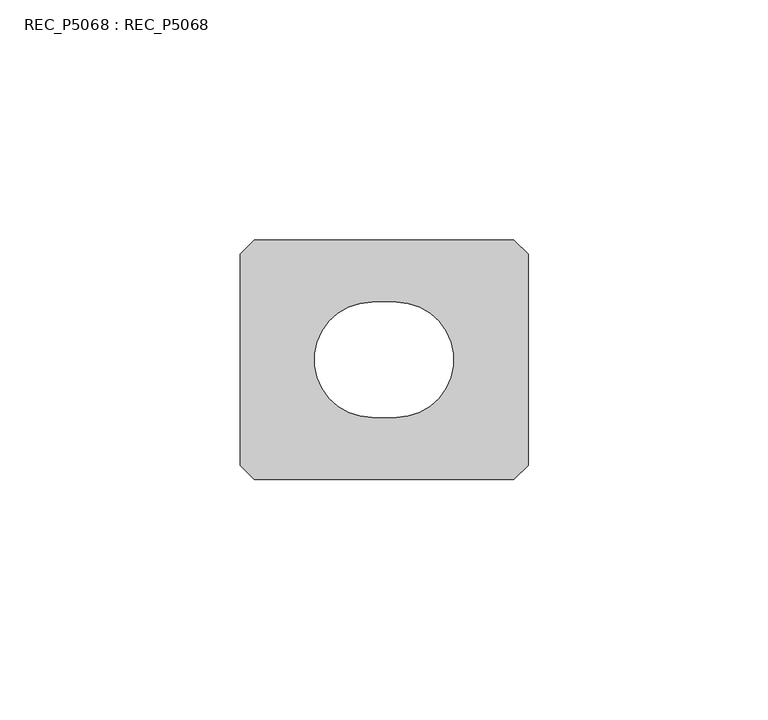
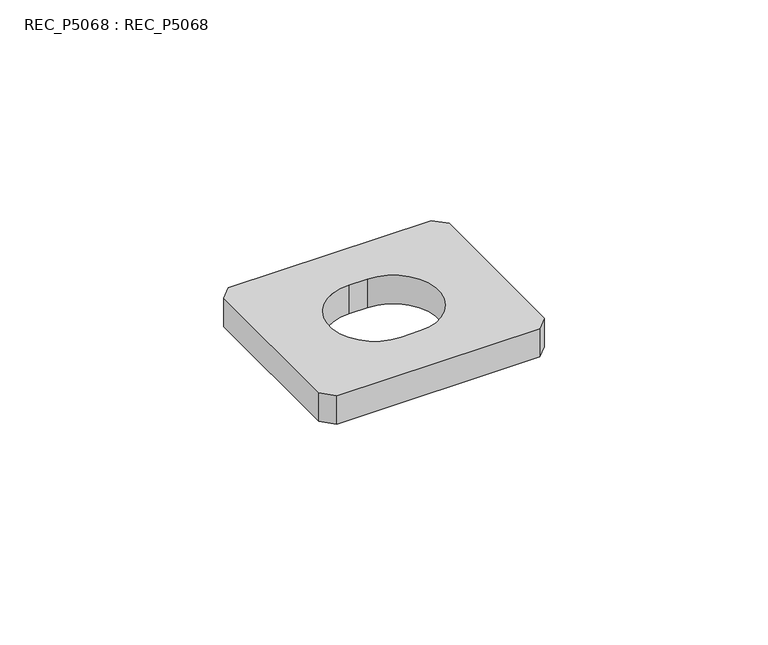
"""IFC4 building model written with IfcOpenShell, lengths in millimetres: fastener geometry, REC_P5068 : REC_P5068."""

from ifc_helpers import new_model, si_unit, point, frame_2d, origin, origin_with_axes, place, context, project, spatial, polyline, circle_curve, trimmed, segment, composite_curve, outline, extrude, source, transform, mapped, element, save


def rec_p5068_rec_p5068_d82b0db2(model_context):
    return source(origin(), model_context, "Body", "SweptSolid", [
        extrude(outline(polyline([(27.0, -25.0), (-27.0, -25.0), (-30.0, -22.0), (-30.0, 22.0), (-27.0, 25.0), (27.0, 25.0), (30.0, 22.0), (30.0, -22.0), (27.0, -25.0)]), holes=[composite_curve([segment(trimmed(circle_curve(frame_2d((-2.5, 0.0)), 12.0), [point((-2.5, 12.0))], [point((-2.5, -12.0))], True, "CARTESIAN"), True, "CONTINUOUS"), segment(polyline([(-2.5, -12.0), (2.5, -12.0)]), True, "CONTINUOUS"), segment(trimmed(circle_curve(frame_2d((2.5, 0.0)), 12.0), [point((2.5, -12.0))], [point((2.5, 12.0))], True, "CARTESIAN"), True, "CONTINUOUS"), segment(polyline([(2.5, 12.0), (-2.5, 12.0)]), True, "CONTINUOUS")], self_intersect=False)]), origin_with_axes(), (0.0, 0.0, 1.0), 8.0),
    ])


if __name__ == "__main__":
    model = new_model("IFC4")
    model_context = context("Model", 3, world=origin())
    ifc_project = project(units=[si_unit("LENGTHUNIT", "METRE", prefix="MILLI")], contexts=[model_context])
    site = spatial("IfcSite", under=ifc_project)
    building = spatial("IfcBuilding", under=site)
    placement = place(None, origin())
    rec_p5068_rec_p5068_shape = rec_p5068_rec_p5068_d82b0db2(model_context)
    element("IfcFastener", 1, ObjectType="REC_P5068 : REC_P5068", at=placement, inside=building, context=model_context, shape_type="MappedRepresentation", body=[
        mapped(rec_p5068_rec_p5068_shape, transform((0.0, 0.0, 0.0), x_axis=(1.0, 0.0, 0.0), y_axis=(0.0, 1.0, 0.0), z_axis=(0.0, 0.0, 1.0))),
    ])
    save(model, "model.ifc")
